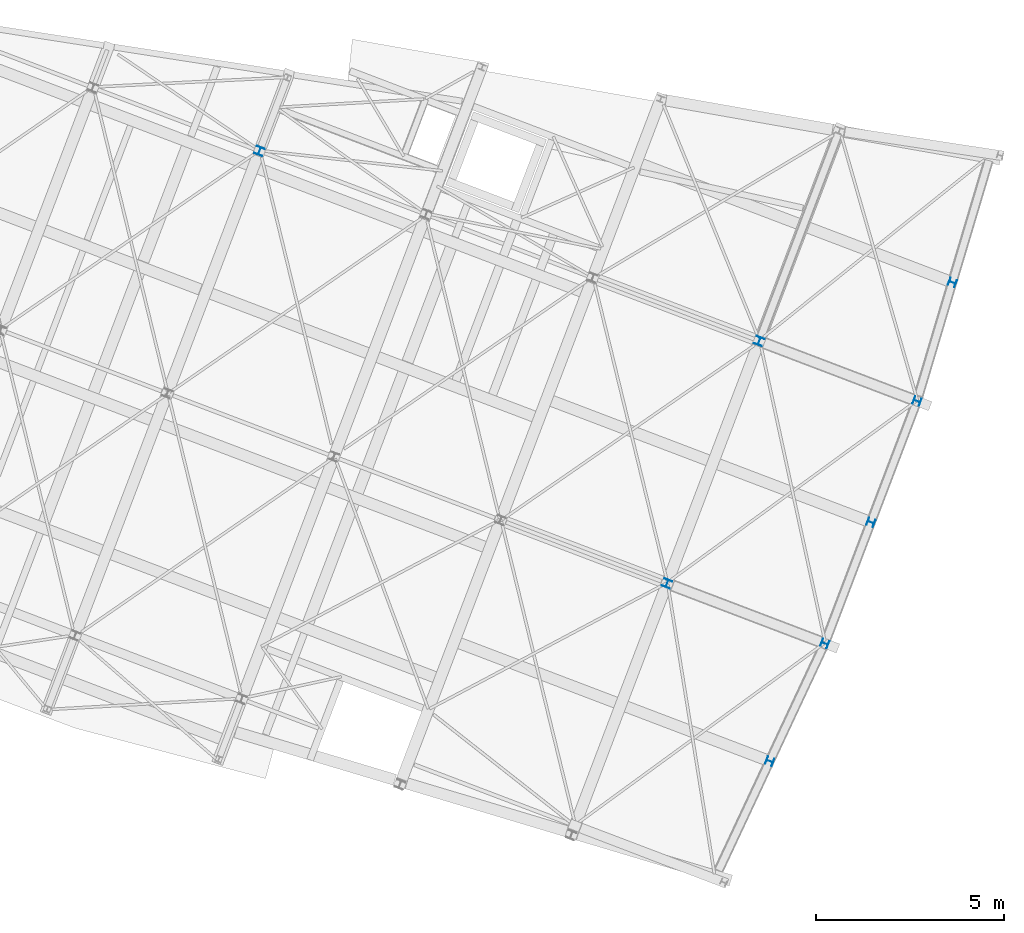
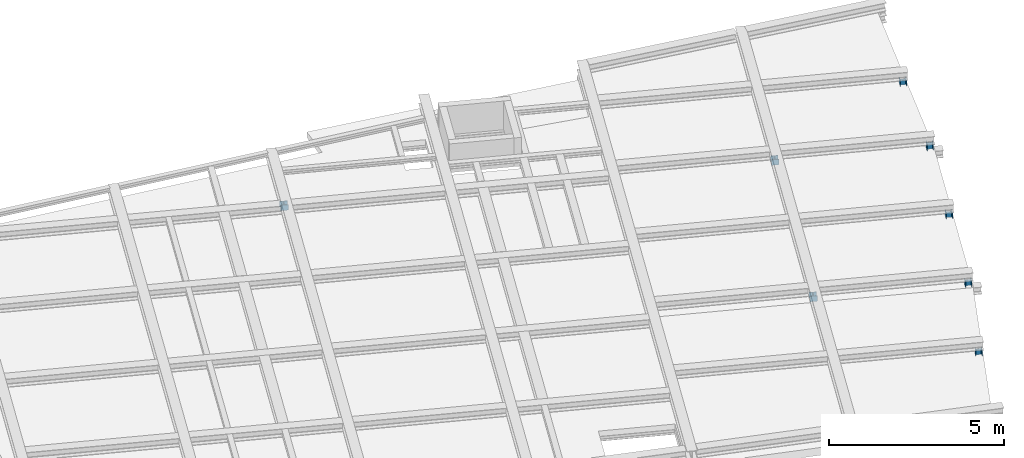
# One storey, part 6 of 21: 8 columns.
"""IFC2X3 building model written with IfcOpenShell, lengths in millimetres."""

from ifc_helpers import new_model, entity, si_unit, converted_unit, derived_unit, direction, frame, frame_2d, origin, origin_2d_with_axis, place, context, subcontext, project, spatial, i_section, extrude, source, transform, mapped, material, type_object, type_shapes, element, save


model = new_model("IFC2X3")

# Units and contexts
model_context = context("Model", 3, precision=0.01, world=origin(), true_north=direction((6.123233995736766e-17, 1.0)))
body_context = subcontext(model_context, "Body", "Model", "MODEL_VIEW")
ifc_project = project(units=[si_unit("LENGTHUNIT", "METRE", prefix="MILLI"), converted_unit("PLANEANGLEUNIT", "DEGREE", entity("IfcPlaneAngleMeasure", 0.017453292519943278), si_unit("PLANEANGLEUNIT", "RADIAN"), dimensions=[0, 0, 0, 0, 0, 0, 0]), si_unit("AREAUNIT", "SQUARE_METRE"), derived_unit("THERMALTRANSMITTANCEUNIT", [(si_unit("MASSUNIT", "GRAM", prefix="KILO"), 1), (si_unit("THERMODYNAMICTEMPERATUREUNIT", "KELVIN"), -1), (si_unit("TIMEUNIT", "SECOND"), -3)])], contexts=[model_context])

# Site, building, storey
site_placement = place(None, frame((-72937.88054949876, 11621.45624098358, 0.0), z_axis=(0.0, 0.0, 1.0), x_axis=(0.9346418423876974, -0.35559053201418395, 0.0)))
site = spatial("IfcSite", under=ifc_project, at=site_placement, Name="Default", CompositionType="ELEMENT")
building_placement = place(site_placement, origin())
building = spatial("IfcBuilding", under=site, at=building_placement, CompositionType="ELEMENT")
storey_placement = place(building_placement, frame((0.0, 0.0, 4250.0)))
storey = spatial("IfcBuildingStorey", under=building, at=storey_placement, Name="01 eerste verdieping", CompositionType="ELEMENT", Elevation=4250.0)

# Columns
ifc_material = material(Name="metaal_staal_generiek")
column_type_1 = type_object("IfcColumnType", Name="DIE22", PredefinedType="COLUMN", material=ifc_material)
shared_shape_1 = source(origin(), body_context, "Body", "SweptSolid", [
    extrude(i_section(OverallWidth=219.99999999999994, OverallDepth=209.99999999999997, WebThickness=6.999999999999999, FlangeThickness=11.000000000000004, FilletRadius=18.0, at=origin_2d_with_axis()), frame((0.0, 0.0, 4190.0), z_axis=(0.0, 0.0, 1.0), x_axis=(-1.0, 0.0, 0.0)), (0.0, 0.0, 1.0), 189.99999999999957),
])
type_shapes(column_type_1, [shared_shape_1])
for number, where in (
    (1, (62300.0, 28760.0, -4250.0)),
    (2, (62300.0, 21880.0, -4250.0)),
    (3, (48110.0, 28760.0, -4250.0)),
):
    element("IfcColumn", number, at=place(storey_placement, frame(where)), inside=storey, type_object=column_type_1, material=ifc_material, Name="28.11_SCO_KolomHEA:DIE22", ObjectType="28.11_SCO_KolomHEA:DIE22", context=body_context, shape_type="MappedRepresentation", body=[
        mapped(shared_shape_1, transform((0.0, 0.0, 0.0), scale=1.0)),
    ])
column_type_2 = type_object("IfcColumnType", Name="HEA200", PredefinedType="COLUMN", material=ifc_material)
shared_shape_2 = source(origin(), body_context, "Body", "SweptSolid", [
    extrude(i_section(OverallWidth=199.99999999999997, OverallDepth=189.99999999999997, WebThickness=6.5000000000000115, FlangeThickness=9.999999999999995, FilletRadius=18.0, at=origin_2d_with_axis()), frame((0.0, 0.0, 4170.0), z_axis=(0.0, 0.0, 1.0), x_axis=(-1.0, 0.0, 0.0)), (0.0, 0.0, 1.0), 210.00000000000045),
])
type_shapes(column_type_2, [shared_shape_2])
for number, where, z_axis, x_axis, name in (
    (4, (66524.3142473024, 18440.000128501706, -4250.0), (0.0, 0.0, 1.0), (0.0, 1.0, 0.0), "28.11_SCO_KolomHEA:HEA200"),
    (5, (66779.31423777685, 21880.0, -4250.0), (0.0, 0.0, 1.0), (0.0, 1.0, 0.0), "28.11_SCO_KolomHEA:HEA200"),
    (6, (66779.31423777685, 25320.00081153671, -4250.0), (0.0, 0.0, 1.0), (0.0, 1.0, 0.0), "28.11_SCO_KolomHEA:HEA200"),
    (7, (66536.24036247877, 32039.1142393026, -4250.0), (0.0, 0.0, 1.0), (0.0, 1.0, 0.0), "28.11_SCO_KolomHEA:HEA200"),
):
    element("IfcColumn", number, at=place(storey_placement, frame(where, z_axis=z_axis, x_axis=x_axis)), inside=storey, type_object=column_type_2, material=ifc_material, Name=name, ObjectType="28.11_SCO_KolomHEA:HEA200", context=body_context, shape_type="MappedRepresentation", body=[
        mapped(shared_shape_2, transform((0.0, 0.0, 0.0), scale=1.0)),
    ])
column_type_3 = type_object("IfcColumnType", Name="HEA200", PredefinedType="COLUMN", material=ifc_material)
shared_shape_3 = source(origin(), body_context, "Body", "SweptSolid", [
    extrude(i_section(OverallWidth=199.99999999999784, OverallDepth=190.0000000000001, WebThickness=6.499999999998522, FlangeThickness=9.999999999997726, FilletRadius=18.0, at=frame_2d((0.0, 1.2995826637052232e-11), x_axis=(1.0, 0.0))), frame((66779.31423777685, 28760.0, 4170.0), z_axis=(0.0, 0.0, 1.0), x_axis=(0.0, -1.0, 0.0)), (0.0, 0.0, 1.0), 240.00000000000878),
])
type_shapes(column_type_3, [shared_shape_3])
column_placement = place(storey_placement, frame((0.0, 0.0, -4250.0)))
element("IfcColumn", 8, at=column_placement, inside=storey, type_object=column_type_3, material=ifc_material, Name="28.11_SCO_KolomHEA:HEA200", ObjectType="28.11_SCO_KolomHEA:HEA200", context=body_context, shape_type="MappedRepresentation", body=[
    mapped(shared_shape_3, transform((0.0, 0.0, 0.0), scale=1.0)),
])

save(model, "model.ifc")
